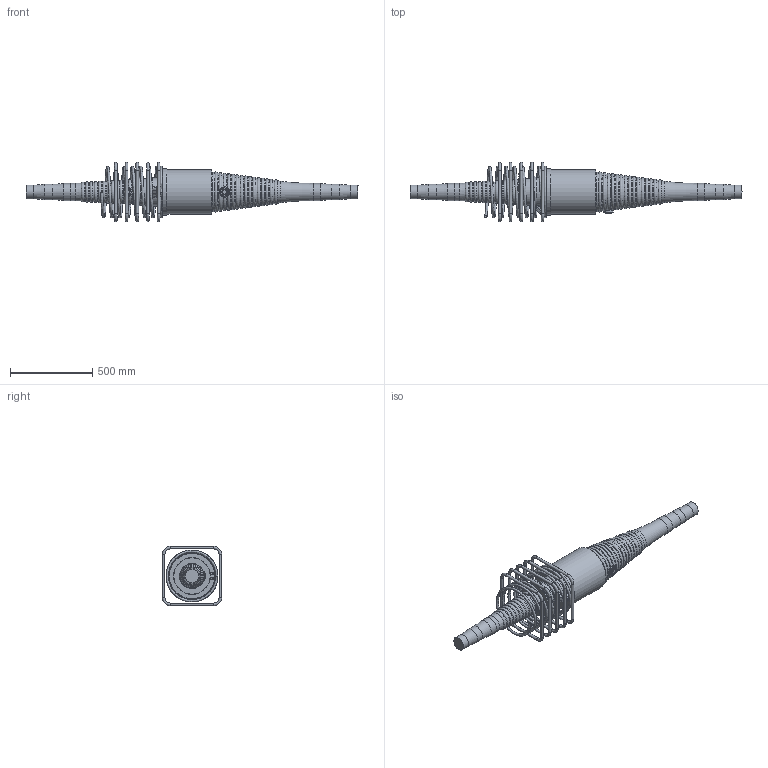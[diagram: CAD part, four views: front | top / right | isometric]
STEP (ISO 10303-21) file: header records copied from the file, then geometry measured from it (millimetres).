
FILE_DESCRIPTION(/* description */ (''),/* implementation_level */ '2;1');
FILE_NAME(/* name */ 'BBR VT CONA CMI BT 1506_Coupler H Assembly_CS-34,28.stp',/* time_stamp */ '2025-05-14T09:41:05+02:00',/* author */ ('tk'),/* organization */ (''),/* preprocessor_version */ 'ST-DEVELOPER v20',/* originating_system */ 'Autodesk Inventor 2024',/* authorisation */ '');
FILE_SCHEMA (('AUTOMOTIVE_DESIGN { 1 0 10303 214 3 1 1 }'));
Products named in the file (1): BBR VT CONA CMI BT 1506_Coupler H Assembly_CS-34,28
Bounding box: 2015.13 x 360 x 360 mm (x, y, z)
Volume: 47286284.9 mm3; surface area: 1811932.2 mm2
Topology: 7 solids, 8 shells, 975 faces, 2601 edges, 1691 vertices
Faces by surface type: bspline 389, plane 309, torus 129, cylinder 104, cone 34, sphere 10
Full cylindrical faces by diameter (mm): 16 x20, 34 x2, 57 x2, 84 x2, 94 x2, 104 x2, 164 x1, 218 x1, 223.017 x1, 273 x1, 280 x1
Entity records: 45279 total; most frequent: CARTESIAN_POINT 22561, ORIENTED_EDGE 5182, DIRECTION 3798, EDGE_CURVE 2591, VERTEX_POINT 1691, AXIS2_PLACEMENT_3D 1412, EDGE_LOOP 1046, FACE_OUTER_BOUND 975
